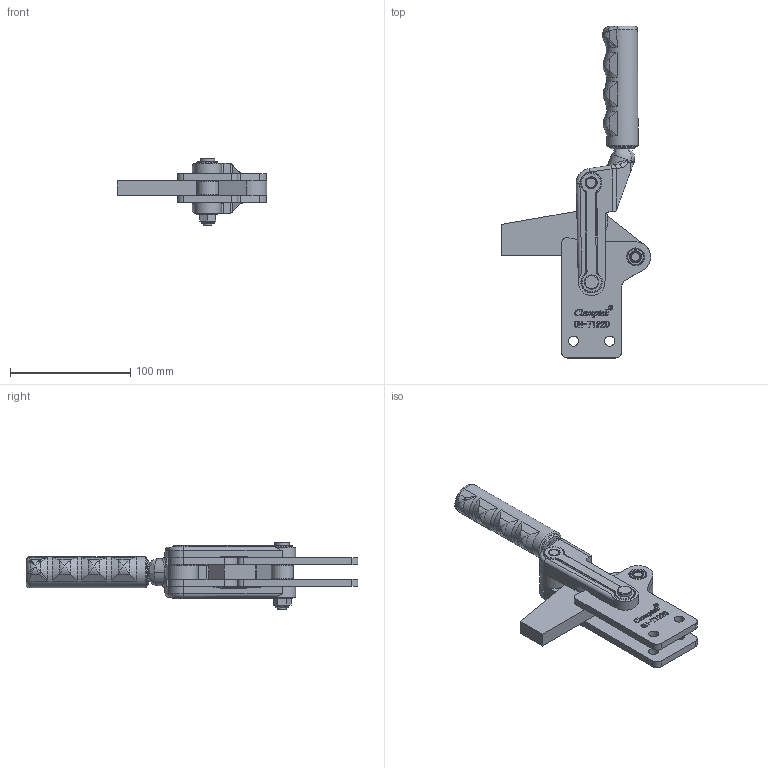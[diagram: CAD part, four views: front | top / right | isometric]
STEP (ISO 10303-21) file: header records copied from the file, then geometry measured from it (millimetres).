
FILE_DESCRIPTION(/* description */ ('STEP AP203'),/* implementation_level */ '2;1');
FILE_NAME(/* name */ 'D:\Vault_2016\Projekty\NASZ KATALOG\CLAMPTEK\STRONA\Heavy duty weldables\CH-71220\CH-71220_ZAMKNIETY.stp',/* time_stamp */ '2019-01-21T09:17:29+01:00',/* author */ ('CADENGINEERING4'),/* organization */ ('Î¢ÈíÖÐ¹ú'),/* preprocessor_version */ 'ST-DEVELOPER v17.2',/* originating_system */ 'Autodesk Inventor 2019',/* authorisation */ '');
FILE_SCHEMA (('AUTOMOTIVE_DESIGN { 1 0 10303 214 3 1 1 }'));
Products named in the file (12): CH-71220_ZAMKNIETY; 71220-01_Ä¬ÈÏ; M8_Ä¬ÈÏ; 71220-09_Ä¬ÈÏ; 71220-10_Ä¬ÈÏ; 71220-02_Ä¬ÈÏ; 71220-11_Ä¬ÈÏ; 71220-03_Ä¬ÈÏ; 71220-06_Ä¬ÈÏ; 71220-08_Ä¬ÈÏ; 71220-07_Ä¬ÈÏ; 71220-04_Ä¬ÈÏ_°´¼Ó¹
¤_
Assembly tree (20 placements, depth 2):
  CH-71220_ZAMKNIETY
    71220-06_Ä¬ÈÏ  x8
    71220-01_Ä¬ÈÏ
    M8_Ä¬ÈÏ
    71220-09_Ä¬ÈÏ
    71220-10_Ä¬ÈÏ
    71220-02_Ä¬ÈÏ
    71220-11_Ä¬ÈÏ
    71220-08_Ä¬ÈÏ  x2
    71220-03_Ä¬ÈÏ  x2
    71220-07_Ä¬ÈÏ
    71220-04_Ä¬ÈÏ_°´¼Ó¹
¤_
Bounding box: 124 x 275.99 x 56 mm (x, y, z)
Volume: 259912.4 mm3; surface area: 101017.8 mm2
Topology: 22 solids, 22 shells, 2072 faces, 6039 edges, 4034 vertices
Faces by surface type: plane 938, cylinder 801, bspline 200, cone 83, torus 46, sphere 4
Full cylindrical faces by diameter (mm): 3 x1, 4 x1, 5.6 x1, 6.5 x5, 7 x1, 8 x6, 8.3 x4, 9 x15, 9.1 x1, 11 x1, 12 x1, 14 x16, 18 x1, 22 x2, 26 x1
Entity records: 69240 total; most frequent: CARTESIAN_POINT 24451, ORIENTED_EDGE 9724, DIRECTION 8883, EDGE_CURVE 4862, VERTEX_POINT 3244, AXIS2_PLACEMENT_3D 2981, LINE 2921, VECTOR 2921
